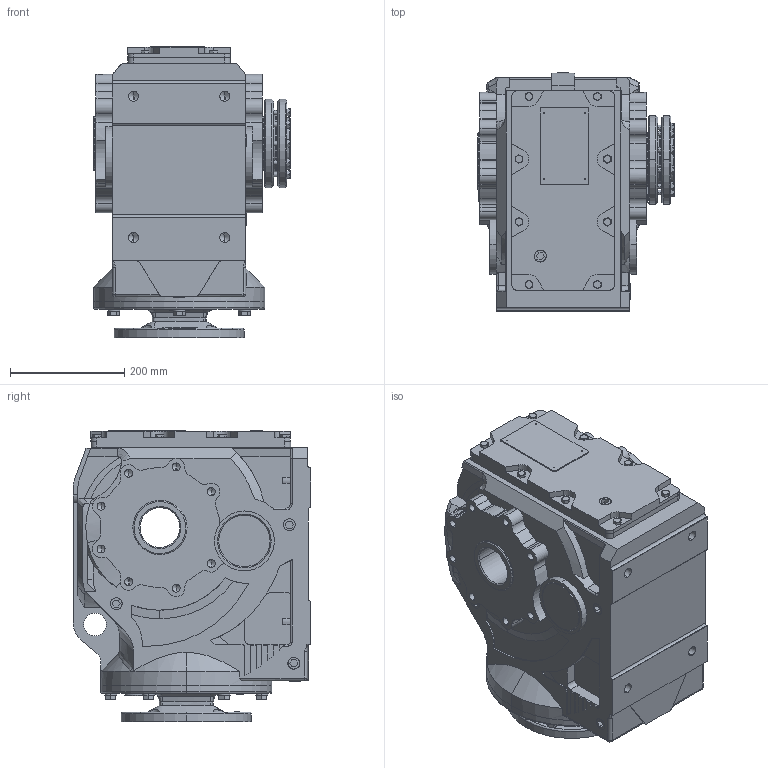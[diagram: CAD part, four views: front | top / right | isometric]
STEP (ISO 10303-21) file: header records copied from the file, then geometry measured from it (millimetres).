
FILE_DESCRIPTION (( 'STEP AP203' ), '1' );
FILE_NAME ('KAN97-182TC-A-POWER LOCK.STEP', '2020-12-04T06:17:03', ( 'Microsoft' ), ( 'Microsoft' ), 'SwSTEP 2.0', 'SolidWorks 2012', '' );
FILE_SCHEMA (( 'CONFIG_CONTROL_DESIGN' ));
Length unit declared in the file: millimetre
Products named in the file (1): KAN97-182TC-A-POWER LOCK
Bounding box: 345 x 417.5 x 512 mm (x, y, z)
Volume: 41682572.1 mm3; surface area: 1350797.6 mm2
Topology: 2 solids, 28 shells, 1882 faces, 4696 edges, 2946 vertices
Faces by surface type: plane 731, cylinder 591, cone 383, bspline 144, torus 30, sphere 3
Entity records: 67325 total; most frequent: CARTESIAN_POINT 23168, ORIENTED_EDGE 9210, DIRECTION 9039, EDGE_CURVE 4605, AXIS2_PLACEMENT_3D 3364, VERTEX_POINT 2946, LINE 2311, VECTOR 2311
